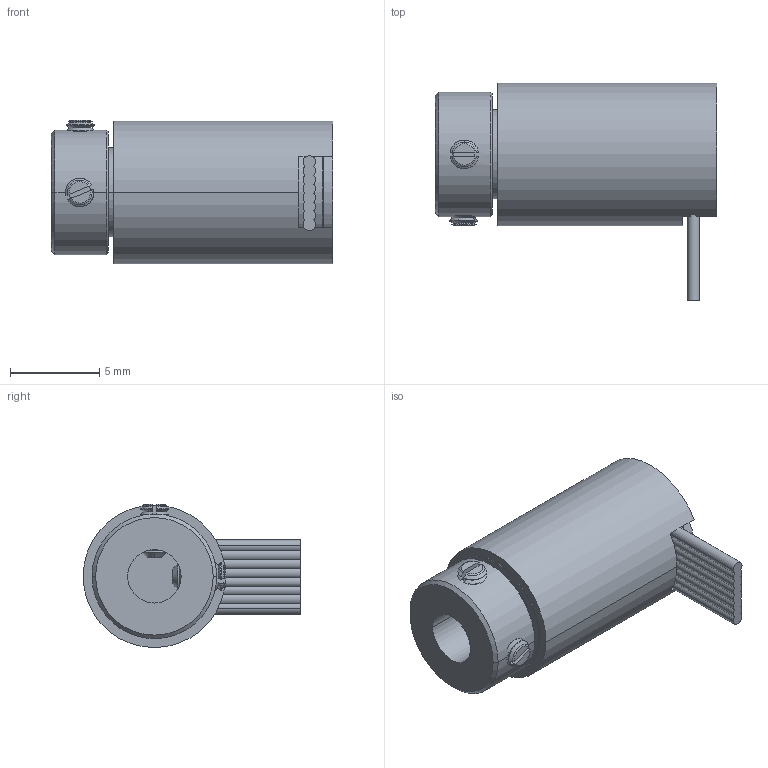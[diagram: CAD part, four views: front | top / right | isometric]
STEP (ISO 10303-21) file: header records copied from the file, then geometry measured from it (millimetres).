
FILE_DESCRIPTION (( 'STEP AP214' ), '1' );
FILE_NAME ('ËÈÐ-ÌÈ208À èñï. 3.STEP', '2017-05-23T08:31:34', ( '' ), ( '' ), 'SwSTEP 2.0', 'SolidWorks 2013', '' );
FILE_SCHEMA (( 'AUTOMOTIVE_DESIGN' ));
Length unit declared in the file: millimetre
Products named in the file (1): ËÈÐ-ÌÈ208À èñï. 3
Bounding box: 15.8 x 12.22 x 8.04 mm (x, y, z)
Volume: 563.3 mm3; surface area: 2043.9 mm2
Topology: 16 solids, 16 shells, 712 faces, 2155 edges, 1422 vertices
Faces by surface type: sphere 224, cylinder 147, torus 130, cone 106, plane 105
Entity records: 35056 total; most frequent: CARTESIAN_POINT 7978, ORIENTED_EDGE 4310, DIRECTION 3889, EDGE_CURVE 2155, AXIS2_PLACEMENT_3D 1817, VERTEX_POINT 1422, CIRCLE 1104, B_SPLINE_CURVE_WITH_KNOTS 796
